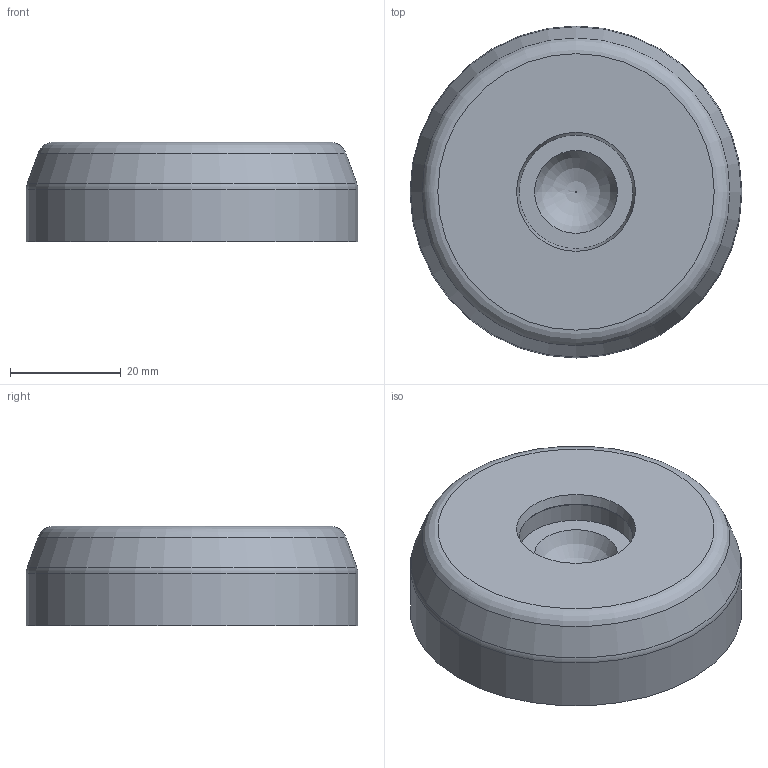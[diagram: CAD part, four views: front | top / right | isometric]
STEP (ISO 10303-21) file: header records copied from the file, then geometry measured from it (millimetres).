
FILE_DESCRIPTION(('STEP AP203'), '1');
FILE_NAME('À00015.4060 ', '', ('UNSPECIFIED'), ('UNSPECIFIED'), 'C3D Converter', 'C3D Toolkit', '');
FILE_SCHEMA(('CONFIG_CONTROL_DESIGN'));
Length unit declared in the file: millimetre
Products named in the file (1): А00016.4080
Bounding box: 59.99 x 59.99 x 18 mm (x, y, z)
Volume: 37198 mm3; surface area: 9850.5 mm2
Topology: 1 solids, 1 shells, 19 faces, 30 edges, 18 vertices
Faces by surface type: plane 7, cylinder 4, cone 4, revolution 3, torus 1
Full cylindrical faces by diameter (mm): 14.979 x1, 20.985 x1, 49.994 x1, 59.995 x1
Entity records: 479 total; most frequent: CARTESIAN_POINT 126, DIRECTION 73, EDGE_LOOP 36, ORIENTED_EDGE 36, AXIS2_PLACEMENT_3D 35, FACE_OUTER_BOUND 24, ADVANCED_FACE 19, EDGE_CURVE 18
